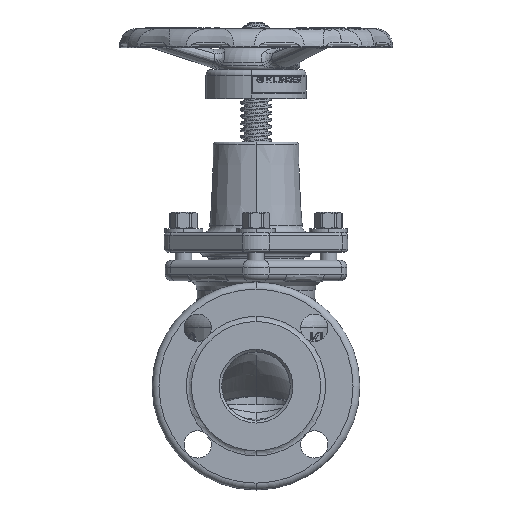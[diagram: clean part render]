
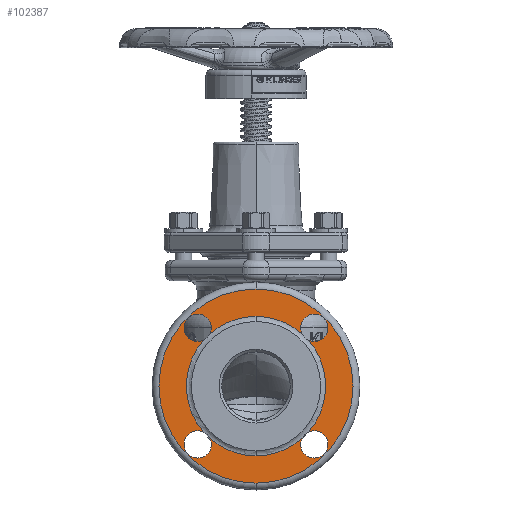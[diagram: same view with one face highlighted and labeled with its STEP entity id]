
A CAD part, left-side view. The second image highlights one B-rep face of the part: STEP entity #102387.
In plain terms, the highlighted planar face has unit normal (-1, 0, 0).
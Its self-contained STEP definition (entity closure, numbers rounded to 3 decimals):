
#24868=CARTESIAN_POINT('',(-99.9,0.,0.));
#24869=DIRECTION('',(-1.,0.,0.));
#24870=DIRECTION('',(0.,0.,1.));
#24871=AXIS2_PLACEMENT_3D('',#24868,#24869,#24870);
#24878=CARTESIAN_POINT('',(-99.9,0.,0.));
#24879=DIRECTION('',(-1.,0.,0.));
#24880=DIRECTION('',(0.,0.66,-0.751));
#24881=AXIS2_PLACEMENT_3D('',#24878,#24879,#24880);
#24905=CARTESIAN_POINT('',(-99.9,0.,0.));
#24906=DIRECTION('',(-1.,0.,0.));
#24907=DIRECTION('',(0.,0.751,0.66));
#24908=AXIS2_PLACEMENT_3D('',#24905,#24906,#24907);
#25199=CARTESIAN_POINT('',(-99.9,0.,0.));
#25200=DIRECTION('',(-1.,0.,0.));
#25201=DIRECTION('',(0.,0.,1.));
#25202=AXIS2_PLACEMENT_3D('',#25199,#25200,#25201);
#25204=CARTESIAN_POINT('',(-99.9,0.,0.));
#25205=DIRECTION('',(-1.,0.,0.));
#25206=DIRECTION('',(0.,0.,-1.));
#25207=AXIS2_PLACEMENT_3D('',#25204,#25205,#25206);
#25209=CARTESIAN_POINT('',(-99.9,42.639,42.639));
#25210=DIRECTION('',(-1.,0.,0.));
#25211=DIRECTION('',(0.,-1.,0.));
#25212=AXIS2_PLACEMENT_3D('',#25209,#25210,#25211);
#25214=CARTESIAN_POINT('',(-99.9,42.639,42.639));
#25215=DIRECTION('',(-1.,0.,0.));
#25216=DIRECTION('',(0.,1.,0.));
#25217=AXIS2_PLACEMENT_3D('',#25214,#25215,#25216);
#25219=CARTESIAN_POINT('',(-99.9,42.639,-42.639));
#25220=DIRECTION('',(-1.,0.,0.));
#25221=DIRECTION('',(0.,-0.434,0.901));
#25222=AXIS2_PLACEMENT_3D('',#25219,#25220,#25221);
#25224=CARTESIAN_POINT('',(-99.9,42.639,-42.639));
#25225=DIRECTION('',(-1.,0.,0.));
#25226=DIRECTION('',(0.,1.,0.));
#25227=AXIS2_PLACEMENT_3D('',#25224,#25225,#25226);
#25229=CARTESIAN_POINT('',(-99.9,42.639,-42.639));
#25230=DIRECTION('',(-1.,0.,0.));
#25231=DIRECTION('',(0.,-1.,0.));
#25232=AXIS2_PLACEMENT_3D('',#25229,#25230,#25231);
#25234=CARTESIAN_POINT('',(-99.9,-42.639,-42.639));
#25235=DIRECTION('',(-1.,0.,0.));
#25236=DIRECTION('',(0.,0.901,0.434));
#25237=AXIS2_PLACEMENT_3D('',#25234,#25235,#25236);
#25239=CARTESIAN_POINT('',(-99.9,-42.639,-42.639));
#25240=DIRECTION('',(-1.,0.,0.));
#25241=DIRECTION('',(0.,1.,0.));
#25242=AXIS2_PLACEMENT_3D('',#25239,#25240,#25241);
#25244=CARTESIAN_POINT('',(-99.9,-42.639,-42.639));
#25245=DIRECTION('',(-1.,0.,0.));
#25246=DIRECTION('',(0.,-1.,0.));
#25247=AXIS2_PLACEMENT_3D('',#25244,#25245,#25246);
#25249=CARTESIAN_POINT('',(-99.9,-42.639,42.639));
#25250=DIRECTION('',(-1.,0.,0.));
#25251=DIRECTION('',(0.,0.434,-0.901));
#25252=AXIS2_PLACEMENT_3D('',#25249,#25250,#25251);
#25254=CARTESIAN_POINT('',(-99.9,-42.639,42.639));
#25255=DIRECTION('',(-1.,0.,0.));
#25256=DIRECTION('',(0.,-1.,0.));
#25257=AXIS2_PLACEMENT_3D('',#25254,#25255,#25256);
#25259=CARTESIAN_POINT('',(-99.9,-42.639,42.639));
#25260=DIRECTION('',(-1.,0.,0.));
#25261=DIRECTION('',(0.,1.,0.));
#25262=AXIS2_PLACEMENT_3D('',#25259,#25260,#25261);
#25264=CARTESIAN_POINT('',(-99.9,42.639,42.639));
#25265=DIRECTION('',(-1.,0.,0.));
#25266=DIRECTION('',(0.,-0.901,-0.434));
#25267=AXIS2_PLACEMENT_3D('',#25264,#25265,#25266);
#25331=CARTESIAN_POINT('',(-99.9,0.,0.));
#25332=DIRECTION('',(1.,0.,0.));
#25333=DIRECTION('',(0.,-0.66,-0.751));
#25334=AXIS2_PLACEMENT_3D('',#25331,#25332,#25333);
#25351=CARTESIAN_POINT('',(-99.9,0.,0.));
#25352=DIRECTION('',(1.,0.,0.));
#25353=DIRECTION('',(0.,0.,1.));
#25354=AXIS2_PLACEMENT_3D('',#25351,#25352,#25353);
#25378=CARTESIAN_POINT('',(-99.9,0.,0.));
#25379=DIRECTION('',(1.,0.,0.));
#25380=DIRECTION('',(0.,-0.751,0.66));
#25381=AXIS2_PLACEMENT_3D('',#25378,#25379,#25380);
#43013=CARTESIAN_POINT('',(-99.9,0.,71.));
#43014=CARTESIAN_POINT('',(-99.9,0.,-71.));
#43015=VERTEX_POINT('',#43013);
#43016=VERTEX_POINT('',#43014);
#43596=CARTESIAN_POINT('',(-99.9,0.,50.966));
#43597=VERTEX_POINT('',#43596);
#43600=CARTESIAN_POINT('',(-99.9,0.,-50.966));
#43601=VERTEX_POINT('',#43600);
#45002=CARTESIAN_POINT('',(-99.9,-52.639,42.639));
#45003=CARTESIAN_POINT('',(-99.9,-32.639,42.639));
#45004=VERTEX_POINT('',#45002);
#45005=VERTEX_POINT('',#45003);
#45006=CARTESIAN_POINT('',(-99.9,-33.631,38.295));
#45007=VERTEX_POINT('',#45006);
#45008=CARTESIAN_POINT('',(-99.9,-38.295,33.631));
#45009=VERTEX_POINT('',#45008);
#45014=CARTESIAN_POINT('',(-99.9,-52.639,-42.639));
#45015=CARTESIAN_POINT('',(-99.9,-38.295,-33.631));
#45016=VERTEX_POINT('',#45014);
#45017=VERTEX_POINT('',#45015);
#45018=CARTESIAN_POINT('',(-99.9,-33.631,-38.295));
#45019=CARTESIAN_POINT('',(-99.9,-32.639,-42.639));
#45020=VERTEX_POINT('',#45018);
#45021=VERTEX_POINT('',#45019);
#45026=CARTESIAN_POINT('',(-99.9,32.639,-42.639));
#45027=CARTESIAN_POINT('',(-99.9,33.631,-38.295));
#45028=VERTEX_POINT('',#45026);
#45029=VERTEX_POINT('',#45027);
#45030=CARTESIAN_POINT('',(-99.9,38.295,-33.631));
#45031=CARTESIAN_POINT('',(-99.9,52.639,-42.639));
#45032=VERTEX_POINT('',#45030);
#45033=VERTEX_POINT('',#45031);
#45038=CARTESIAN_POINT('',(-99.9,32.639,42.639));
#45039=CARTESIAN_POINT('',(-99.9,52.639,42.639));
#45040=VERTEX_POINT('',#45038);
#45041=VERTEX_POINT('',#45039);
#45042=CARTESIAN_POINT('',(-99.9,38.295,33.631));
#45043=VERTEX_POINT('',#45042);
#45044=CARTESIAN_POINT('',(-99.9,33.631,38.295));
#45045=VERTEX_POINT('',#45044);
#102344=CARTESIAN_POINT('',(-99.9,0.,0.));
#102345=DIRECTION('',(-1.,0.,0.));
#102346=DIRECTION('',(0.,0.,1.));
#102347=AXIS2_PLACEMENT_3D('',#102344,#102345,#102346);
#102348=PLANE('',#102347);
#102349=ORIENTED_EDGE('',*,*,#102334,.F.);
#102351=ORIENTED_EDGE('',*,*,#102350,.F.);
#102352=EDGE_LOOP('',(#102349,#102351));
#102353=FACE_OUTER_BOUND('',#102352,.F.);
#102355=ORIENTED_EDGE('',*,*,#102354,.T.);
#102356=ORIENTED_EDGE('',*,*,#102249,.T.);
#102357=ORIENTED_EDGE('',*,*,#102232,.T.);
#102359=ORIENTED_EDGE('',*,*,#102358,.T.);
#102361=ORIENTED_EDGE('',*,*,#102360,.T.);
#102363=ORIENTED_EDGE('',*,*,#102362,.T.);
#102364=ORIENTED_EDGE('',*,*,#102228,.T.);
#102366=ORIENTED_EDGE('',*,*,#102365,.F.);
#102368=ORIENTED_EDGE('',*,*,#102367,.T.);
#102370=ORIENTED_EDGE('',*,*,#102369,.T.);
#102372=ORIENTED_EDGE('',*,*,#102371,.T.);
#102374=ORIENTED_EDGE('',*,*,#102373,.F.);
#102376=ORIENTED_EDGE('',*,*,#102375,.T.);
#102378=ORIENTED_EDGE('',*,*,#102377,.T.);
#102380=ORIENTED_EDGE('',*,*,#102379,.T.);
#102382=ORIENTED_EDGE('',*,*,#102381,.F.);
#102383=ORIENTED_EDGE('',*,*,#102221,.T.);
#102384=ORIENTED_EDGE('',*,*,#102246,.T.);
#102385=EDGE_LOOP('',(#102355,#102356,#102357,#102359,#102361,#102363,#102364,
#102366,#102368,#102370,#102372,#102374,#102376,#102378,#102380,#102382,#102383,
#102384));
#102386=FACE_BOUND('',#102385,.F.);
#102387=ADVANCED_FACE('',(#102353,#102386),#102348,.T.);
#24872=CIRCLE('',#24871,50.966);
#24882=CIRCLE('',#24881,50.966);
#24909=CIRCLE('',#24908,50.966);
#25203=CIRCLE('',#25202,71.);
#25208=CIRCLE('',#25207,71.);
#25213=CIRCLE('',#25212,10.);
#25218=CIRCLE('',#25217,10.);
#25223=CIRCLE('',#25222,10.);
#25228=CIRCLE('',#25227,10.);
#25233=CIRCLE('',#25232,10.);
#25238=CIRCLE('',#25237,10.);
#25243=CIRCLE('',#25242,10.);
#25248=CIRCLE('',#25247,10.);
#25253=CIRCLE('',#25252,10.);
#25258=CIRCLE('',#25257,10.);
#25263=CIRCLE('',#25262,10.);
#25268=CIRCLE('',#25267,10.);
#25335=CIRCLE('',#25334,50.966);
#25355=CIRCLE('',#25354,50.966);
#25382=CIRCLE('',#25381,50.966);
#102221=EDGE_CURVE('',#43597,#45045,#24872,.T.);
#102228=EDGE_CURVE('',#45029,#43601,#24882,.T.);
#102232=EDGE_CURVE('',#45043,#45032,#24909,.T.);
#102246=EDGE_CURVE('',#45045,#45040,#25268,.T.);
#102249=EDGE_CURVE('',#45041,#45043,#25218,.T.);
#102334=EDGE_CURVE('',#43015,#43016,#25203,.T.);
#102350=EDGE_CURVE('',#43016,#43015,#25208,.T.);
#102354=EDGE_CURVE('',#45040,#45041,#25213,.T.);
#102358=EDGE_CURVE('',#45032,#45033,#25223,.T.);
#102360=EDGE_CURVE('',#45033,#45028,#25228,.T.);
#102362=EDGE_CURVE('',#45028,#45029,#25233,.T.);
#102365=EDGE_CURVE('',#45020,#43601,#25335,.T.);
#102367=EDGE_CURVE('',#45020,#45021,#25238,.T.);
#102369=EDGE_CURVE('',#45021,#45016,#25243,.T.);
#102371=EDGE_CURVE('',#45016,#45017,#25248,.T.);
#102373=EDGE_CURVE('',#45009,#45017,#25382,.T.);
#102375=EDGE_CURVE('',#45009,#45004,#25253,.T.);
#102377=EDGE_CURVE('',#45004,#45005,#25258,.T.);
#102379=EDGE_CURVE('',#45005,#45007,#25263,.T.);
#102381=EDGE_CURVE('',#43597,#45007,#25355,.T.);
